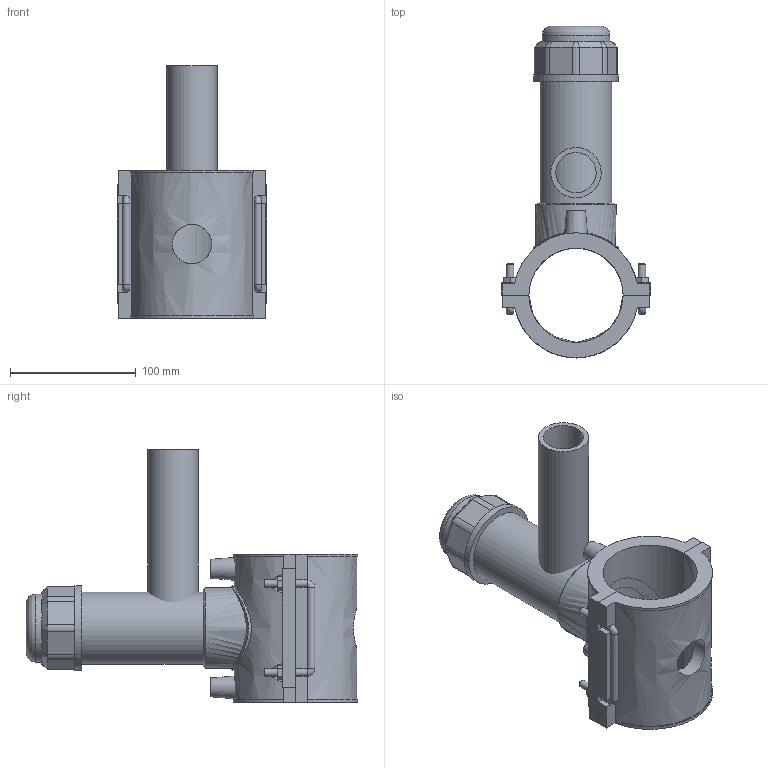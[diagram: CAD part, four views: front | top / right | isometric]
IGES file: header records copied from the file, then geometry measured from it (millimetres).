
Global section: file name: 4963P4075040; native system: Autodesk Inventor 2019; preprocessor: unknown; author: KIM; date: 20220317.112619; units: millimetre
Bounding box: 119 x 264.23 x 201 mm (x, y, z)
Volume: 755219 mm3; surface area: 190407.6 mm2
Topology: 3 solids, 3 shells, 186 faces, 485 edges, 312 vertices
Faces by surface type: bspline 186
